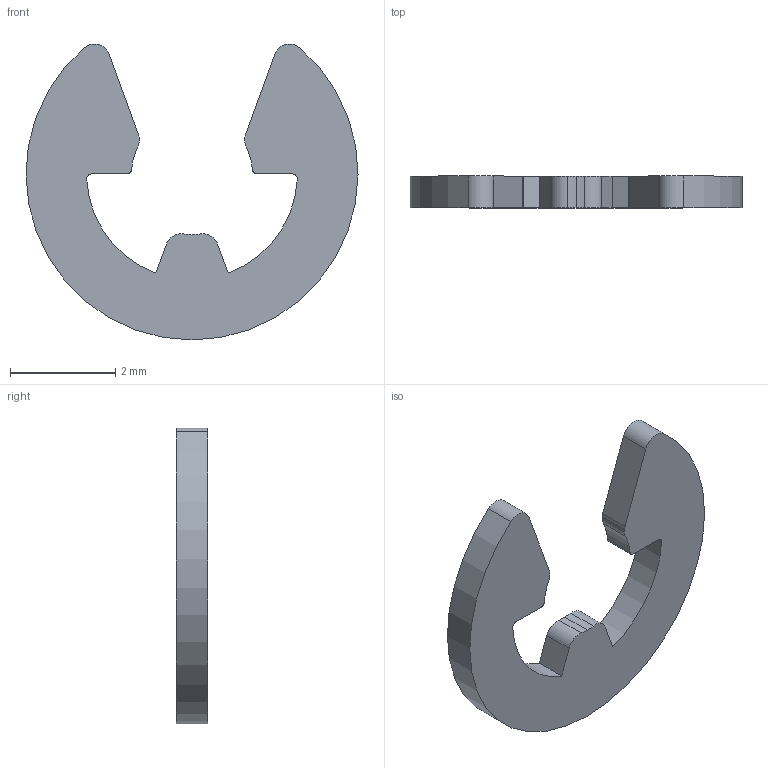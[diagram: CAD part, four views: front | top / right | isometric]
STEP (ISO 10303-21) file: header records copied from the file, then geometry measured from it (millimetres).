
FILE_DESCRIPTION (( 'STEP AP203' ), '1' );
FILE_NAME ('P0382.023-PH.step', '2019-07-25T20:59:38', ( '' ), ( '' ), 'SwSTEP 2.0', 'SolidWorks 2017', '' );
FILE_SCHEMA (( 'CONFIG_CONTROL_DESIGN' ));
Length unit declared in the file: millimetre
Products named in the file (1): P0382.023-PH
Bounding box: 6.3 x 0.6 x 5.62 mm (x, y, z)
Volume: 10.7 mm3; surface area: 53.5 mm2
Topology: 1 solids, 1 shells, 26 faces, 72 edges, 48 vertices
Faces by surface type: cylinder 18, plane 8
Entity records: 929 total; most frequent: DIRECTION 162, CARTESIAN_POINT 147, ORIENTED_EDGE 144, EDGE_CURVE 72, AXIS2_PLACEMENT_3D 63, VERTEX_POINT 48, CIRCLE 36, LINE 36
